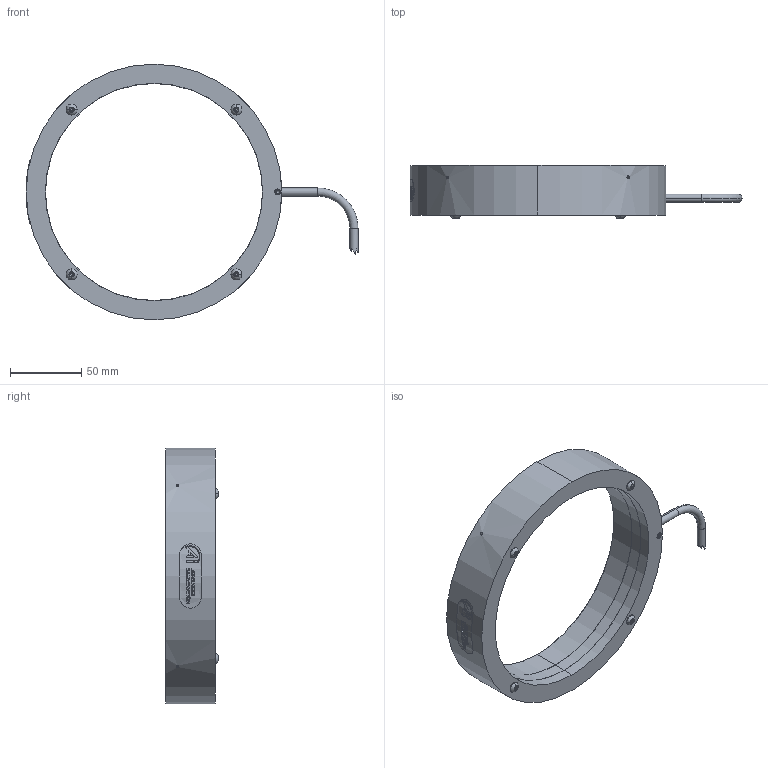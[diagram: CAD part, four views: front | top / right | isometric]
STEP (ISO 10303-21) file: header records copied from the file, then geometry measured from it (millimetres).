
FILE_DESCRIPTION (( 'STEP AP214' ), '1' );
FILE_NAME ('DF196-180_Default.stp', '2021-05-07T18:27:56', ( '' ), ( '' ), 'SwSTEP 2.0', 'SolidWorks 2018', '' );
FILE_SCHEMA (( 'AUTOMOTIVE_DESIGN' ));
Length unit declared in the file: inch
Products named in the file (16): BH-M4x8; 15mm Advanced illumination (RL5064); 91375A074_91375A074; DF196-180_Default; 15mm Ai (RL5064); 091053 (DF196-180); 15mm Label (DF196-180)_Default<As Machined>; 092750; 15mm Swish (RL5064)_Default<As Machined>; 094131_Default<As Machined>; 092408_TRUNCATED; 092667; 092668; 094135_91375A438; 092666; 092751
Assembly tree (18 placements, depth 3):
  DF196-180_Default
    092666
    092750
    092667
    092751
    092668
    91375A074_91375A074
    BH-M4x8  x4
    091053 (DF196-180)
      15mm Label (DF196-180)_Default<As Machined>
      15mm Ai (RL5064)
      15mm Swish (RL5064)_Default<As Machined>
      15mm Advanced illumination (RL5064)
    094131_Default<As Machined>
    094135_91375A438
    092408_TRUNCATED
Bounding box: 233.73 x 37.13 x 179.98 mm (x, y, z)
Volume: 219287 mm3; surface area: 144493.1 mm2
Topology: 48 solids, 48 shells, 727 faces, 1704 edges, 1071 vertices
Faces by surface type: cylinder 261, plane 259, bspline 103, cone 92, torus 12
Entity records: 25156 total; most frequent: CARTESIAN_POINT 11413, ORIENTED_EDGE 2668, DIRECTION 2195, EDGE_CURVE 1334, VERTEX_POINT 849, AXIS2_PLACEMENT_3D 801, EDGE_LOOP 615, LINE 593
